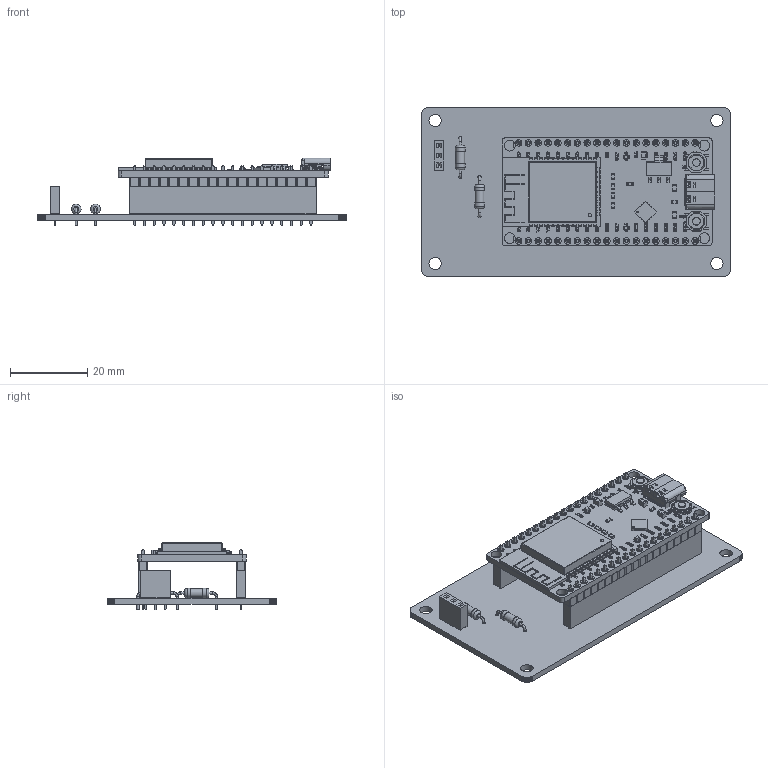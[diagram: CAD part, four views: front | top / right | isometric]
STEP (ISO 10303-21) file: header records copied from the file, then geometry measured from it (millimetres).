
FILE_DESCRIPTION(('KiCad electronic assembly'),'2;1');
FILE_NAME('AquaSensePh.step','2026-11-16T01:05:11',('Pcbnew'),('Kicad'), 'Open CASCADE STEP processor 7.6','KiCad to STEP converter','Unknown' );
FILE_SCHEMA(('AUTOMOTIVE_DESIGN { 1 0 10303 214 1 1 1 1 }'));
Length unit declared in the file: millimetre
Products named in the file (10): AquaSensePh 1; R_Axial_DIN0207_L6.3mm_D2.5mm_P10.16mm_Horizontal; R_Axial_DIN0207_L63mm_D25mm_P1016mm_Horizontal; PinSocket_1x03_P2.54mm_Vertical; PinSocket_1x03_P254mm_Vertical; PinSocket_1x19_P2.54mm_Vertical; PinSocket_1x19_P254mm_Vertical; ESP32_DevKit_38P_USB-C; AquaSensePh PCB
Assembly tree (11 placements, depth 3):
  AquaSensePh 1
    R_Axial_DIN0207_L6.3mm_D2.5mm_P10.16mm_Horizontal  x2
      R_Axial_DIN0207_L63mm_D25mm_P1016mm_Horizontal
    PinSocket_1x03_P2.54mm_Vertical
      PinSocket_1x03_P254mm_Vertical
    PinSocket_1x19_P2.54mm_Vertical  x2
      PinSocket_1x19_P254mm_Vertical
    ESP32_DevKit_38P_USB-C
      ESP32_DevKit_38P_USB-C
    AquaSensePh PCB
Bounding box: 80 x 44 x 17.55 mm (x, y, z)
Volume: 9794 mm3; surface area: 18348.6 mm2
Topology: 198 solids, 424 shells, 7310 faces, 20318 edges, 13700 vertices
Faces by surface type: plane 5246, extrusion 1368, cylinder 626, bspline 48, torus 10, cone 8, sphere 4
Full cylindrical faces by diameter (mm): 0.5 x3, 0.6 x8, 0.8 x6, 1 x117, 1.7 x38, 2 x2, 2.25 x2, 2.5 x4, 2.8 x4, 3.2 x4
Entity records: 453003 total; most frequent: CARTESIAN_POINT 96305, DIRECTION 60577, VECTOR 45590, LINE 44222, ORIENTED_EDGE 34666, PCURVE 34666, DEFINITIONAL_REPRESENTATION 34666, EDGE_CURVE 18743
